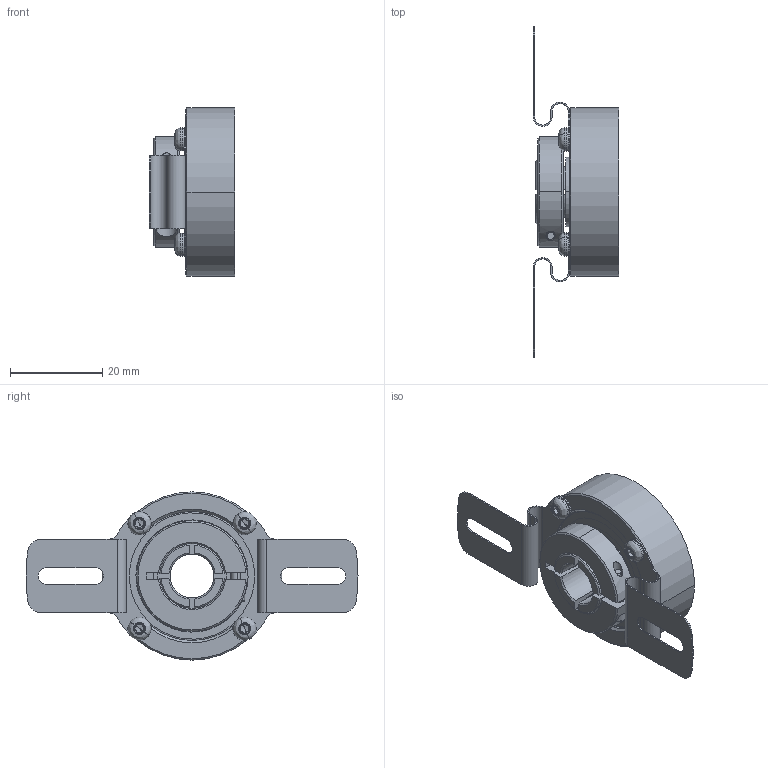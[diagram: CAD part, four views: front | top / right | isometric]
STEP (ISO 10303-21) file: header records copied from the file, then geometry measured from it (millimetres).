
FILE_DESCRIPTION (( 'STEP AP214' ), '1' );
FILE_NAME ('drawing-ucd-vsb0-q3a-n.STEP', '2017-01-23T12:49:13', ( '' ), ( '' ), 'SwSTEP 2.0', 'SolidWorks 2015', '' );
FILE_SCHEMA (( 'AUTOMOTIVE_DESIGN' ));
Length unit declared in the file: millimetre
Products named in the file (1): drawing-ucd-vsb0-q3a-n
Bounding box: 18.5 x 72 x 36.5 mm (x, y, z)
Volume: 10570.1 mm3; surface area: 15304.5 mm2
Topology: 23 solids, 23 shells, 576 faces, 1476 edges, 899 vertices
Faces by surface type: cylinder 193, plane 149, cone 122, bspline 108, torus 4
Entity records: 27216 total; most frequent: CARTESIAN_POINT 7363, ORIENTED_EDGE 2808, DIRECTION 2766, EDGE_CURVE 1404, AXIS2_PLACEMENT_3D 1176, VERTEX_POINT 899, CIRCLE 707, EDGE_LOOP 647
